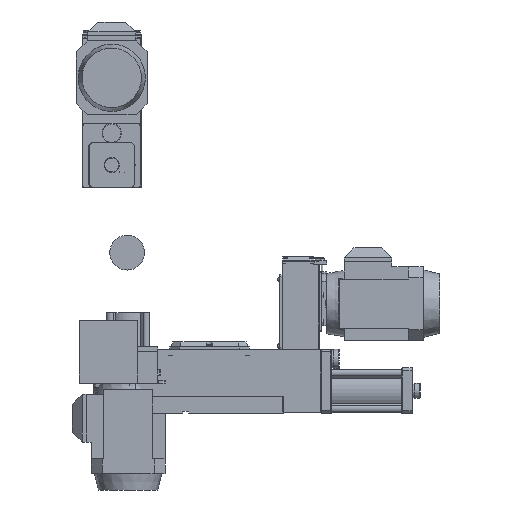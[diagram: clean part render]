
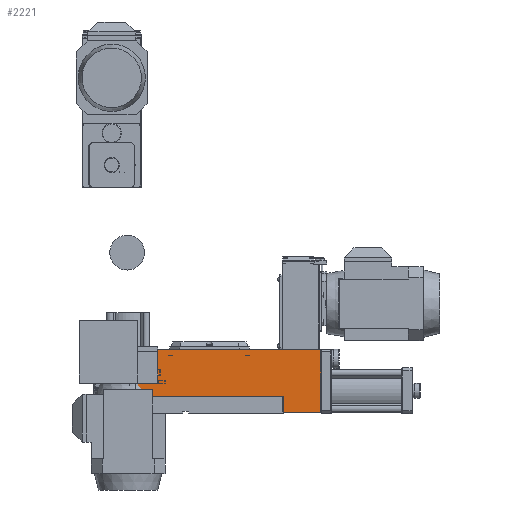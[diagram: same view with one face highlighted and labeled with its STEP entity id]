
A CAD part, left-side view. The second image highlights one B-rep face of the part: STEP entity #2221.
In plain terms, the highlighted planar face has unit normal (-1, 0, 0) as drawn and (0, 1, 0) by its records, which use the part's own axes.
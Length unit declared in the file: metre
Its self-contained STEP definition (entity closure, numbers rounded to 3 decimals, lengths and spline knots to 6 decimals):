
#2221 = ADVANCED_FACE( '', ( #3368 ), #3369, .T. );
#3368 = FACE_OUTER_BOUND( '', #5429, .T. );
#3369 = PLANE( '', #5430 );
#5429 = EDGE_LOOP( '', ( #8774, #8775, #8776, #8777, #8778, #8779 ) );
#5430 = AXIS2_PLACEMENT_3D( '', #8780, #8781, #8782 );
#8774 = ORIENTED_EDGE( '', *, *, #14223, .F. );
#8775 = ORIENTED_EDGE( '', *, *, #14207, .T. );
#8776 = ORIENTED_EDGE( '', *, *, #14218, .T. );
#8777 = ORIENTED_EDGE( '', *, *, #14233, .F. );
#8778 = ORIENTED_EDGE( '', *, *, #14225, .F. );
#8779 = ORIENTED_EDGE( '', *, *, #14161, .F. );
#8780 = CARTESIAN_POINT( '', ( -0.347, 0.098556, 0. ) );
#8781 = DIRECTION( '', ( 0., 1., 0. ) );
#8782 = DIRECTION( '', ( 0., 0., 1. ) );
#14161 = EDGE_CURVE( '', #16089, #16091, #16092, .T. );
#14207 = EDGE_CURVE( '', #16161, #16167, #16169, .T. );
#14218 = EDGE_CURVE( '', #16167, #16188, #16190, .T. );
#14223 = EDGE_CURVE( '', #16161, #16089, #16196, .T. );
#14225 = EDGE_CURVE( '', #16091, #16198, #16199, .T. );
#14233 = EDGE_CURVE( '', #16198, #16188, #16209, .T. );
#16089 = VERTEX_POINT( '', #19616 );
#16091 = VERTEX_POINT( '', #19619 );
#16092 = LINE( '', #19620, #19621 );
#16161 = VERTEX_POINT( '', #19721 );
#16167 = VERTEX_POINT( '', #19730 );
#16169 = LINE( '', #19733, #19734 );
#16188 = VERTEX_POINT( '', #19757 );
#16190 = LINE( '', #19760, #19761 );
#16196 = LINE( '', #19770, #19771 );
#16198 = VERTEX_POINT( '', #19774 );
#16199 = LINE( '', #19775, #19776 );
#16209 = LINE( '', #19787, #19788 );
#19616 = CARTESIAN_POINT( '', ( 0.0245, 0.098556, 0.1265 ) );
#19619 = CARTESIAN_POINT( '', ( -0.3465, 0.098556, 0.1265 ) );
#19620 = CARTESIAN_POINT( '', ( -0.254, 0.098556, 0.1265 ) );
#19621 = VECTOR( '', #24416, 1. );
#19721 = CARTESIAN_POINT( '', ( 0.0245, 0.098556, 0.032 ) );
#19730 = CARTESIAN_POINT( '', ( -0.271, 0.098556, 0.032 ) );
#19733 = CARTESIAN_POINT( '', ( -0.235, 0.098556, 0.032 ) );
#19734 = VECTOR( '', #24482, 1. );
#19757 = CARTESIAN_POINT( '', ( -0.271, 0.098556, 0.0005 ) );
#19760 = CARTESIAN_POINT( '', ( -0.271, 0.098556, 0. ) );
#19761 = VECTOR( '', #24503, 1. );
#19770 = CARTESIAN_POINT( '', ( 0.0245, 0.098556, 0. ) );
#19771 = VECTOR( '', #24510, 1. );
#19774 = CARTESIAN_POINT( '', ( -0.3465, 0.098556, 0.0005 ) );
#19775 = CARTESIAN_POINT( '', ( -0.3465, 0.098556, 0. ) );
#19776 = VECTOR( '', #24512, 1. );
#19787 = CARTESIAN_POINT( '', ( -0.254, 0.098556, 0.0005 ) );
#19788 = VECTOR( '', #24526, 1. );
#24416 = DIRECTION( '', ( -1., 0., 0. ) );
#24482 = DIRECTION( '', ( -1., 0., 0. ) );
#24503 = DIRECTION( '', ( 0., 0., -1. ) );
#24510 = DIRECTION( '', ( 0., 0., 1. ) );
#24512 = DIRECTION( '', ( 0., 0., -1. ) );
#24526 = DIRECTION( '', ( 1., 0., 0. ) );
